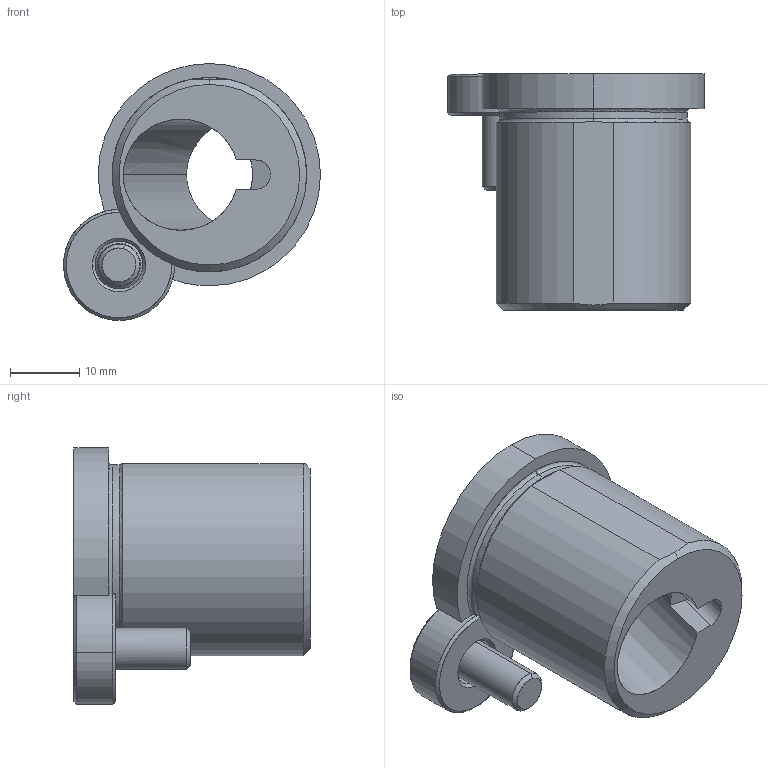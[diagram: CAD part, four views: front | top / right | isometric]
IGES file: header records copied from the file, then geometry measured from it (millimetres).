
Start section: START RECORD GO HERE.
Global section: file name: gr283432-15.igs; native system: DASSAULT SYSTEMES CATIA V5 R20 - www.3ds.com; preprocessor: CATIA Version 5 Release 20 ; author: Utente; organization: NB04-ASUS; date: 20201108.075523; units: millimetre
Bounding box: 37 x 34 x 36.99 mm (x, y, z)
Surface area: 7351.5 mm2 (no closed solid volume)
Topology: 0 solids, 0 shells, 71 faces, 322 edges, 320 vertices
Faces by surface type: revolution 46, plane 25
